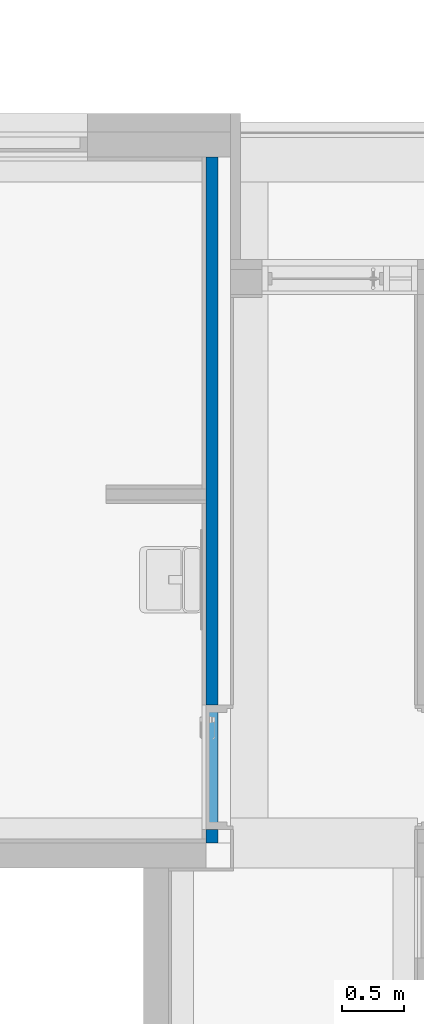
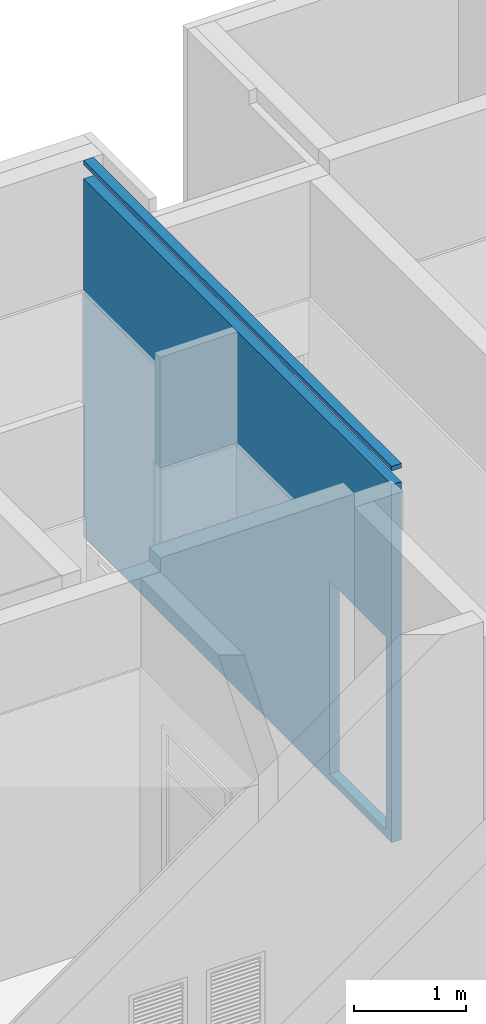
# One storey, part 55 of 76: 1 wall, 2 openings.
"""IFC2X3 building model written with IfcOpenShell, lengths in millimetres."""

from ifc_helpers import new_model, entity, si_unit, converted_unit, derived_unit, direction, frame, frame_2d, origin, place, context, subcontext, project, spatial, polyline, rectangle, outline, extrude, clip, bounded_halfspace, material, layer, layer_set, layer_usage, type_object, element, save


model = new_model("IFC2X3")

# Units and contexts
model_context = context("Model", 3, precision=0.01, world=origin(), true_north=direction((6.123031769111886e-17, 1.0)))
body_context = subcontext(model_context, "Body", "Model", "MODEL_VIEW")
ifc_project = project(units=[si_unit("LENGTHUNIT", "METRE", prefix="MILLI"), si_unit("AREAUNIT", "SQUARE_METRE"), si_unit("VOLUMEUNIT", "CUBIC_METRE"), converted_unit("PLANEANGLEUNIT", "DEGREE", entity("IfcRatioMeasure", 0.017453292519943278), si_unit("PLANEANGLEUNIT", "RADIAN"), dimensions=[0, 0, 0, 0, 0, 0, 0]), si_unit("MASSUNIT", "GRAM", prefix="KILO"), derived_unit("MASSDENSITYUNIT", [(si_unit("MASSUNIT", "GRAM", prefix="KILO"), 1), (si_unit("LENGTHUNIT", "METRE"), -3)]), derived_unit("MOMENTOFINERTIAUNIT", [(si_unit("LENGTHUNIT", "METRE"), 4)]), si_unit("TIMEUNIT", "SECOND"), si_unit("FREQUENCYUNIT", "HERTZ"), si_unit("THERMODYNAMICTEMPERATUREUNIT", "DEGREE_CELSIUS"), derived_unit("THERMALTRANSMITTANCEUNIT", [(si_unit("MASSUNIT", "GRAM", prefix="KILO"), 1), (si_unit("THERMODYNAMICTEMPERATUREUNIT", "KELVIN"), -1), (si_unit("TIMEUNIT", "SECOND"), -3)]), derived_unit("VOLUMETRICFLOWRATEUNIT", [(si_unit("LENGTHUNIT", "METRE"), 3), (si_unit("TIMEUNIT", "SECOND"), -1)]), derived_unit("MASSFLOWRATEUNIT", [(si_unit("MASSUNIT", "GRAM", prefix="KILO"), 1), (si_unit("TIMEUNIT", "SECOND"), -1)]), derived_unit("ROTATIONALFREQUENCYUNIT", [(si_unit("TIMEUNIT", "SECOND"), -1)]), si_unit("ELECTRICCURRENTUNIT", "AMPERE"), si_unit("ELECTRICVOLTAGEUNIT", "VOLT"), si_unit("POWERUNIT", "WATT"), si_unit("FORCEUNIT", "NEWTON", prefix="KILO"), si_unit("ILLUMINANCEUNIT", "LUX"), si_unit("LUMINOUSFLUXUNIT", "LUMEN"), si_unit("LUMINOUSINTENSITYUNIT", "CANDELA"), derived_unit("USERDEFINED", [(si_unit("MASSUNIT", "GRAM", prefix="KILO"), -1), (si_unit("LENGTHUNIT", "METRE"), -2), (si_unit("TIMEUNIT", "SECOND"), 3), (si_unit("LUMINOUSFLUXUNIT", "LUMEN"), 1)]), derived_unit("SOUNDPOWERUNIT", [(si_unit("MASSUNIT", "GRAM", prefix="KILO"), 1), (si_unit("LENGTHUNIT", "METRE"), 2), (si_unit("TIMEUNIT", "SECOND"), -3)]), derived_unit("SOUNDPRESSUREUNIT", [(si_unit("MASSUNIT", "GRAM", prefix="KILO"), 1), (si_unit("LENGTHUNIT", "METRE"), -1), (si_unit("TIMEUNIT", "SECOND"), -2)]), derived_unit("LINEARVELOCITYUNIT", [(si_unit("LENGTHUNIT", "METRE"), 1), (si_unit("TIMEUNIT", "SECOND"), -1)]), si_unit("PRESSUREUNIT", "PASCAL"), derived_unit("USERDEFINED", [(si_unit("LENGTHUNIT", "METRE"), -2), (si_unit("MASSUNIT", "GRAM", prefix="KILO"), 1), (si_unit("TIMEUNIT", "SECOND"), -2)]), derived_unit("LINEARFORCEUNIT", [(si_unit("MASSUNIT", "GRAM", prefix="KILO"), 1), (si_unit("LENGTHUNIT", "METRE"), 1), (si_unit("TIMEUNIT", "SECOND"), -2), (si_unit("LENGTHUNIT", "METRE"), -1)]), derived_unit("PLANARFORCEUNIT", [(si_unit("MASSUNIT", "GRAM", prefix="KILO"), 1), (si_unit("LENGTHUNIT", "METRE"), 1), (si_unit("TIMEUNIT", "SECOND"), -2), (si_unit("LENGTHUNIT", "METRE"), -2)])], contexts=[model_context])

# Site, building, storey
site_placement = place(None, frame((-14167.972527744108, -657.2125860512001, 0.0)))
site = spatial("IfcSite", under=ifc_project, at=site_placement, Name="Default", CompositionType="ELEMENT")
building_placement = place(site_placement, origin())
building = spatial("IfcBuilding", under=site, at=building_placement, Name="Sample Building", CompositionType="ELEMENT")
storey_placement = place(building_placement, frame((0.0, 0.0, 9300.0)))
storey = spatial("IfcBuildingStorey", under=building, at=storey_placement, Name="지상 3층", CompositionType="ELEMENT", Elevation=9300.000000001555)

# Wall, openings
ifc_material = material(Name="KBIMS-콘크리트")
ifc_layer = layer(ifc_material, 200.0)
ifc_layer_set = layer_set([ifc_layer], Name="기본 벽:WA111-철근콘크리트구조 벽 200mm_CW1")
ifc_layer_usage = layer_usage(ifc_layer_set, "AXIS2", "NEGATIVE", 100.0)
wall_type = type_object("IfcWallType", Name="기본 벽:WA111-철근콘크리트구조 벽 200mm_CW1", PredefinedType="STANDARD", material=ifc_layer_set)
wall_placement = place(storey_placement, frame((36367.963798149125, 27957.212307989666, -2.297844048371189e-09), z_axis=(0.0, 0.0, 1.0), x_axis=(0.0, -1.0, 0.0)))
wall = element("IfcWallStandardCase", 1, at=wall_placement, inside=storey, type_object=wall_type, material=ifc_layer_usage, Name="기본 벽:WA111-철근콘크리트구조 벽 200mm_CW1", ObjectType="기본 벽:WA111-철근콘크리트구조 벽 200mm_CW1", context=body_context, shape_type="Clipping", body=[
    clip(clip(clip(clip(extrude(outline(polyline([(5700.0, -100.0), (5700.0, 100.0), (5343.539489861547, 100.0), (5343.539489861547, 0.008692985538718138), (4443.539489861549, 0.008692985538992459), (4443.539489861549, 100.0), (1100.0000128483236, 100.0), (900.0000128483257, 100.0), (0.0, 100.0), (0.0, -100.0), (5500.0, -100.0), (5700.0, -100.0)])), origin(), (0.0, 0.0, 1.0), 4100.000000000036), bounded_halfspace(frame((5500.0, -100.0, 3950.0), z_axis=(0.0, 0.0, -1.0), x_axis=(0.0, 1.0, 0.0)), True, frame((5500.0, -100.0, 3950.0), z_axis=(0.0, 0.0, -1.0), x_axis=(0.0, 1.0, 0.0)), polyline([(0.0, 7.402542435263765e-08), (30482.64962199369, 7.401613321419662e-08), (30482.64962199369, -1676400.0), (60960.0, -1676400.0), (60960.0, -1615440.0350231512), (60960.0, -1402079.9950653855), (60960.0, -1341119.9950653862), (60960.0, -60959.93968738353), (60960.0, 60960.0), (1.3167664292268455e-09, 60960.0), (0.0, 7.402542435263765e-08)]))), bounded_halfspace(frame((5500.0, 0.008692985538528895, 4100.0), z_axis=(-1.0, 0.0, 0.0), x_axis=(0.0, 0.0, 1.0)), True, frame((5500.0, 0.008692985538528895, 4100.0), z_axis=(-1.0, 0.0, 0.0), x_axis=(0.0, 0.0, 1.0)), polyline([(0.0, 0.0), (-15240.0, 0.0), (-15240.0, -30482.64962199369), (0.0, -30482.64962199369), (0.0, 0.0)]))), bounded_halfspace(frame((0.0, 0.0086929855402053, 4100.0), z_axis=(0.0, -1.0, 0.0), x_axis=(0.0, 0.0, 1.0)), True, frame((0.0, 0.0086929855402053, 4100.0), z_axis=(0.0, -1.0, 0.0), x_axis=(0.0, 0.0, 1.0)), polyline([(0.0, 0.0), (-15240.0, 0.0), (-15240.0, -1676400.0), (0.0, -1676400.0), (0.0, 0.0)]))), bounded_halfspace(frame((5343.539489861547, 0.008692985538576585, 80.0), z_axis=(0.0, -1.0, 0.0), x_axis=(0.0, 0.0, 1.0)), True, frame((5343.539489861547, 0.008692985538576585, 80.0), z_axis=(0.0, -1.0, 0.0), x_axis=(0.0, 0.0, 1.0)), polyline([(-9.572545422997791e-09, -1.3860699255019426e-09), (-9.572545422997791e-09, 274320.0), (-24384.0, 274320.0), (-24384.0, 0.0), (-9.572545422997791e-09, -1.3860699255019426e-09)]))),
])
opening_1_placement = place(storey_placement, frame((36367.963798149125, 27957.212307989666, -2.297844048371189e-09), z_axis=(0.0, 0.0, 1.0), x_axis=(0.0, -1.0, 0.0)))
element("IfcOpeningElement", 2, at=opening_1_placement, cuts=wall, Name="기본 벽:WA111-철근콘크리트구조 벽 200mm_CW1:1", ObjectType="Opening", context=body_context, shape_type="SweptSolid", body=[
    extrude(rectangle(XDim=5499.999996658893, YDim=100.0086929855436, at=frame_2d((1.3271517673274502e-05, -16.668115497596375), x_axis=(1.0, 0.0))), frame((2750.000011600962, -66.66376900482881, 3900.0), z_axis=(0.0, 0.0, 1.0), x_axis=(-1.0, 0.0, 0.0)), (0.0, 0.0, 1.0), 150.00000000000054),
])
opening_2_placement = place(wall_placement, frame((5393.539489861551, 100.0, 80.0)))
element("IfcOpeningElement", 3, at=opening_2_placement, cuts=wall, Name="DR111-외여닫이문(철재,일반)_유리포함(원형):DR111-외여닫이문(철재, 일반)_유리포함 (원형)_2100x1000:1", ObjectType="Opening", context=body_context, shape_type="SweptSolid", body=[
    extrude(rectangle(XDim=2099.999999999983, YDim=999.9999999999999, at=frame_2d((1049.9999999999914, 500.00000000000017), x_axis=(1.0, 0.0))), frame((0.0, 0.0, 0.0), z_axis=(0.0, -1.0, 0.0), x_axis=(0.0, 0.0, 1.0)), (0.0, 0.0, 1.0), 200.0),
])

save(model, "model.ifc")
